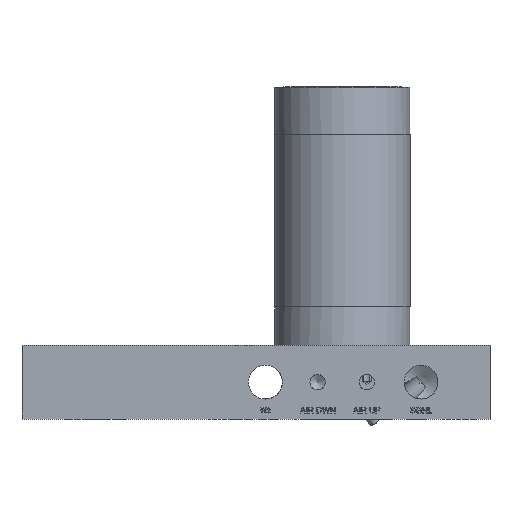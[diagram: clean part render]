
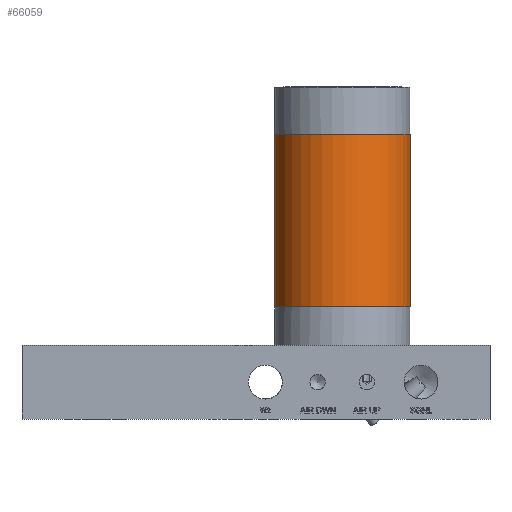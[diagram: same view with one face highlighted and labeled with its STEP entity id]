
A CAD part, front view. The second image highlights one B-rep face of the part: STEP entity #66059.
In plain terms, the highlighted cylindrical face has radius 17.59 mm (diameter 35.179 mm), a full revolution.
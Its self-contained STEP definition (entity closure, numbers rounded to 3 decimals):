
#4174=CYLINDRICAL_SURFACE('',#72002,17.59);
#7515=FACE_OUTER_BOUND('',#11689,.T.);
#11689=EDGE_LOOP('',(#54339,#54340,#54341,#54342));
#19635=CIRCLE('',#72003,17.59);
#19636=CIRCLE('',#72004,17.59);
#21233=LINE('',#177577,#23389);
#23389=VECTOR('',#84098,17.59);
#28585=VERTEX_POINT('',#177574);
#28586=VERTEX_POINT('',#177576);
#37433=EDGE_CURVE('',#28585,#28585,#19635,.T.);
#37434=EDGE_CURVE('',#28585,#28586,#21233,.T.);
#37435=EDGE_CURVE('',#28586,#28586,#19636,.T.);
#54339=ORIENTED_EDGE('',*,*,#37433,.T.);
#54340=ORIENTED_EDGE('',*,*,#37434,.T.);
#54341=ORIENTED_EDGE('',*,*,#37435,.F.);
#54342=ORIENTED_EDGE('',*,*,#37434,.F.);
#66059=ADVANCED_FACE('',(#7515),#4174,.T.);
#72002=AXIS2_PLACEMENT_3D('',#177573,#84094,#84095);
#72003=AXIS2_PLACEMENT_3D('',#177575,#84096,#84097);
#72004=AXIS2_PLACEMENT_3D('',#177578,#84099,#84100);
#84094=DIRECTION('center_axis',(0.,0.,
1.));
#84095=DIRECTION('ref_axis',(-0.999,-0.044,0.));
#84096=DIRECTION('center_axis',(0.,0.,
-1.));
#84097=DIRECTION('ref_axis',(-0.999,-0.044,0.));
#84098=DIRECTION('',(0.,0.,-1.));
#84099=DIRECTION('center_axis',(0.,0.,
-1.));
#84100=DIRECTION('ref_axis',(-0.999,-0.044,0.));
#177573=CARTESIAN_POINT('Origin',(0.,0.,
28.892));
#177574=CARTESIAN_POINT('',(17.573,0.77,73.342));
#177575=CARTESIAN_POINT('Origin',(0.,0.,
73.342));
#177576=CARTESIAN_POINT('',(17.573,0.77,28.892));
#177577=CARTESIAN_POINT('',(17.573,0.77,28.892));
#177578=CARTESIAN_POINT('Origin',(0.,0.,
28.892));
